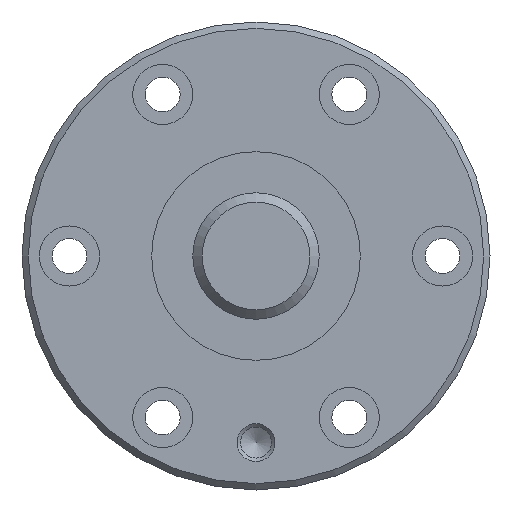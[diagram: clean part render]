
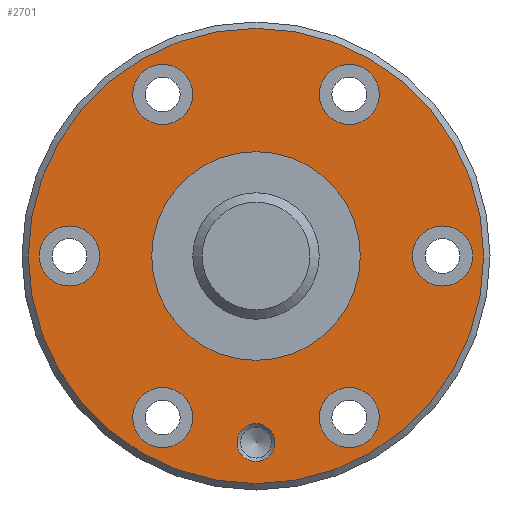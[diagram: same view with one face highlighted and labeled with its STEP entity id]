
A CAD part, left-side view. The second image highlights one B-rep face of the part: STEP entity #2701.
In plain terms, the highlighted planar face has unit normal (-1, 0, 0).
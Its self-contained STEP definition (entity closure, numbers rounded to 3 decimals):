
#765=ORIENTED_EDGE('',*,*,#1495,.T.);
#766=ORIENTED_EDGE('',*,*,#1496,.T.);
#767=ORIENTED_EDGE('',*,*,#1497,.T.);
#768=ORIENTED_EDGE('',*,*,#1498,.T.);
#769=ORIENTED_EDGE('',*,*,#1499,.T.);
#770=ORIENTED_EDGE('',*,*,#1500,.T.);
#771=ORIENTED_EDGE('',*,*,#1501,.T.);
#772=ORIENTED_EDGE('',*,*,#1502,.T.);
#773=ORIENTED_EDGE('',*,*,#1503,.F.);
#1495=EDGE_CURVE('',#1856,#1856,#2054,.T.);
#1496=EDGE_CURVE('',#1857,#1857,#2055,.T.);
#1497=EDGE_CURVE('',#1858,#1858,#2056,.T.);
#1498=EDGE_CURVE('',#1859,#1859,#2057,.T.);
#1499=EDGE_CURVE('',#1860,#1860,#2058,.T.);
#1500=EDGE_CURVE('',#1861,#1861,#2059,.T.);
#1501=EDGE_CURVE('',#1862,#1862,#2060,.T.);
#1502=EDGE_CURVE('',#1863,#1863,#2061,.T.);
#1503=EDGE_CURVE('',#1864,#1864,#2062,.T.);
#1856=VERTEX_POINT('',#4170);
#1857=VERTEX_POINT('',#4172);
#1858=VERTEX_POINT('',#4174);
#1859=VERTEX_POINT('',#4176);
#1860=VERTEX_POINT('',#4178);
#1861=VERTEX_POINT('',#4180);
#1862=VERTEX_POINT('',#4182);
#1863=VERTEX_POINT('',#4184);
#1864=VERTEX_POINT('',#4186);
#2054=CIRCLE('',#2925,16.5);
#2055=CIRCLE('',#2926,4.75);
#2056=CIRCLE('',#2927,4.75);
#2057=CIRCLE('',#2928,3.);
#2058=CIRCLE('',#2929,4.75);
#2059=CIRCLE('',#2930,4.75);
#2060=CIRCLE('',#2931,4.75);
#2061=CIRCLE('',#2932,4.75);
#2062=CIRCLE('',#2933,36.);
#2159=EDGE_LOOP('',(#765));
#2160=EDGE_LOOP('',(#766));
#2161=EDGE_LOOP('',(#767));
#2162=EDGE_LOOP('',(#768));
#2163=EDGE_LOOP('',(#769));
#2164=EDGE_LOOP('',(#770));
#2165=EDGE_LOOP('',(#771));
#2166=EDGE_LOOP('',(#772));
#2167=EDGE_LOOP('',(#773));
#2383=FACE_BOUND('',#2159,.T.);
#2384=FACE_BOUND('',#2160,.T.);
#2385=FACE_BOUND('',#2161,.T.);
#2386=FACE_BOUND('',#2162,.T.);
#2387=FACE_BOUND('',#2163,.T.);
#2388=FACE_BOUND('',#2164,.T.);
#2389=FACE_BOUND('',#2165,.T.);
#2390=FACE_BOUND('',#2166,.T.);
#2391=FACE_BOUND('',#2167,.T.);
#2592=PLANE('',#2924);
#2701=ADVANCED_FACE('',(#2383,#2384,#2385,#2386,#2387,#2388,#2389,#2390,
#2391),#2592,.T.);
#2924=AXIS2_PLACEMENT_3D('',#4168,#3327,#3328);
#2925=AXIS2_PLACEMENT_3D('',#4169,#3329,#3330);
#2926=AXIS2_PLACEMENT_3D('',#4171,#3331,#3332);
#2927=AXIS2_PLACEMENT_3D('',#4173,#3333,#3334);
#2928=AXIS2_PLACEMENT_3D('',#4175,#3335,#3336);
#2929=AXIS2_PLACEMENT_3D('',#4177,#3337,#3338);
#2930=AXIS2_PLACEMENT_3D('',#4179,#3339,#3340);
#2931=AXIS2_PLACEMENT_3D('',#4181,#3341,#3342);
#2932=AXIS2_PLACEMENT_3D('',#4183,#3343,#3344);
#2933=AXIS2_PLACEMENT_3D('',#4185,#3345,#3346);
#3327=DIRECTION('',(-1.,0.,0.));
#3328=DIRECTION('',(0.,0.,1.));
#3329=DIRECTION('',(1.,0.,0.));
#3330=DIRECTION('',(0.,0.,-1.));
#3331=DIRECTION('',(1.,0.,0.));
#3332=DIRECTION('',(0.,0.,-1.));
#3333=DIRECTION('',(1.,0.,0.));
#3334=DIRECTION('',(0.,0.,-1.));
#3335=DIRECTION('',(1.,0.,0.));
#3336=DIRECTION('',(0.,0.,-1.));
#3337=DIRECTION('',(1.,0.,0.));
#3338=DIRECTION('',(0.,0.,-1.));
#3339=DIRECTION('',(1.,0.,0.));
#3340=DIRECTION('',(0.,0.,-1.));
#3341=DIRECTION('',(1.,0.,0.));
#3342=DIRECTION('',(0.,0.,-1.));
#3343=DIRECTION('',(1.,0.,0.));
#3344=DIRECTION('',(0.,0.,-1.));
#3345=DIRECTION('',(1.,0.,0.));
#3346=DIRECTION('',(0.,0.,-1.));
#4168=CARTESIAN_POINT('',(0.,36.,0.));
#4169=CARTESIAN_POINT('',(0.,0.,0.));
#4170=CARTESIAN_POINT('',(0.,0.,-16.5));
#4171=CARTESIAN_POINT('',(0.,-25.548,-14.75));
#4172=CARTESIAN_POINT('',(0.,-25.548,-19.5));
#4173=CARTESIAN_POINT('',(0.,25.548,14.75));
#4174=CARTESIAN_POINT('',(0.,25.548,10.));
#4175=CARTESIAN_POINT('',(0.,-29.5,0.));
#4176=CARTESIAN_POINT('',(0.,-29.5,-3.));
#4177=CARTESIAN_POINT('',(0.,0.,29.5));
#4178=CARTESIAN_POINT('',(0.,0.,24.75));
#4179=CARTESIAN_POINT('',(0.,-25.548,14.75));
#4180=CARTESIAN_POINT('',(0.,-25.548,10.));
#4181=CARTESIAN_POINT('',(0.,0.,-29.5));
#4182=CARTESIAN_POINT('',(0.,0.,-34.25));
#4183=CARTESIAN_POINT('',(0.,25.548,-14.75));
#4184=CARTESIAN_POINT('',(0.,25.548,-19.5));
#4185=CARTESIAN_POINT('',(0.,0.,0.));
#4186=CARTESIAN_POINT('',(0.,0.,-36.));
